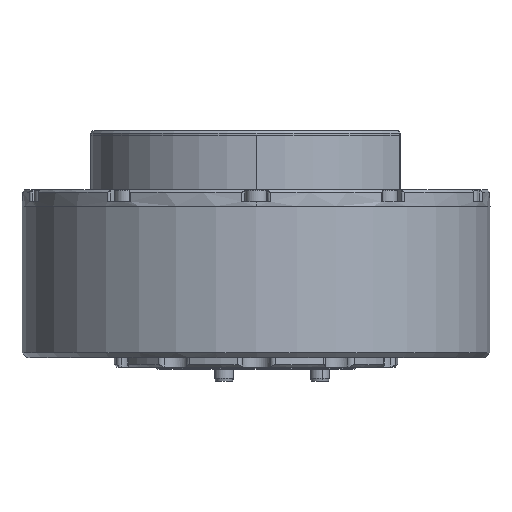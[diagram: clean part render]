
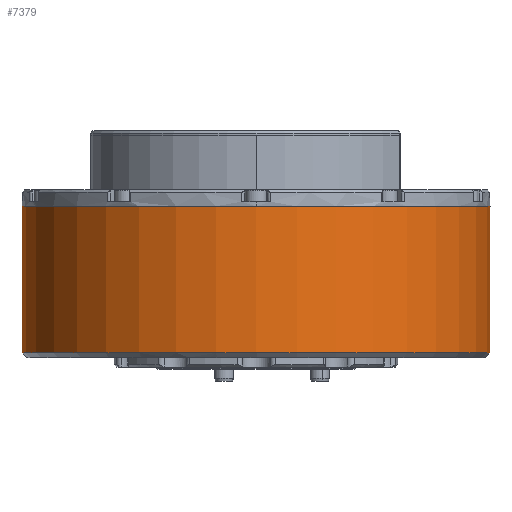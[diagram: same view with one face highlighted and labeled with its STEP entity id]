
A CAD part, front view. The second image highlights one B-rep face of the part: STEP entity #7379.
In plain terms, the highlighted cylindrical face has radius 49.5 mm (diameter 99 mm), a partial arc.
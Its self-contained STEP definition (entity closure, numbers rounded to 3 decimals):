
#339 = VERTEX_POINT ( 'NONE', #51271 ) ;
#1513 = DIRECTION ( 'NONE',  ( 0., 0., -1. ) ) ;
#5390 = DIRECTION ( 'NONE',  ( 1., 0.002, 0. ) ) ;
#5830 = DIRECTION ( 'NONE',  ( 0., 0., 1. ) ) ;
#7071 = CARTESIAN_POINT ( 'NONE',  ( 0., 0., 25.8 ) ) ;
#7242 = EDGE_LOOP ( 'NONE', ( #71191, #24785, #94049, #72724 ) ) ;
#7379 = ADVANCED_FACE ( 'NONE', ( #33160 ), #16682, .T. ) ;
#9573 = VERTEX_POINT ( 'NONE', #102354 ) ;
#16682 = CYLINDRICAL_SURFACE ( 'NONE', #28174, 49.5 ) ;
#19041 = LINE ( 'NONE', #19625, #28493 ) ;
#19062 = CARTESIAN_POINT ( 'NONE',  ( -49.5, -0.105, 33.3 ) ) ;
#19625 = CARTESIAN_POINT ( 'NONE',  ( 49.5, 0.105, 33.3 ) ) ;
#20743 = DIRECTION ( 'NONE',  ( 0., 0., -1. ) ) ;
#22283 = DIRECTION ( 'NONE',  ( 1., 0.002, 0. ) ) ;
#23528 = DIRECTION ( 'NONE',  ( 0., 0., 1. ) ) ;
#24785 = ORIENTED_EDGE ( 'NONE', *, *, #84358, .F. ) ;
#26340 = EDGE_CURVE ( 'NONE', #70093, #9573, #19041, .T. ) ;
#28174 = AXIS2_PLACEMENT_3D ( 'NONE', #66525, #67617, #110484 ) ;
#28493 = VECTOR ( 'NONE', #20743, 1000. ) ;
#30048 = CARTESIAN_POINT ( 'NONE',  ( 49.5, 0.105, 25.8 ) ) ;
#33160 = FACE_OUTER_BOUND ( 'NONE', #7242, .T. ) ;
#38035 = AXIS2_PLACEMENT_3D ( 'NONE', #58482, #5830, #22283 ) ;
#38676 = AXIS2_PLACEMENT_3D ( 'NONE', #7071, #23528, #5390 ) ;
#51271 = CARTESIAN_POINT ( 'NONE',  ( -49.5, -0.105, -5.2 ) ) ;
#58482 = CARTESIAN_POINT ( 'NONE',  ( 0., 0., -5.2 ) ) ;
#59458 = EDGE_CURVE ( 'NONE', #101530, #339, #62100, .T. ) ;
#62100 = LINE ( 'NONE', #19062, #89947 ) ;
#66525 = CARTESIAN_POINT ( 'NONE',  ( 0., 0., 33.3 ) ) ;
#67617 = DIRECTION ( 'NONE',  ( 0., 0., -1. ) ) ;
#69311 = CIRCLE ( 'NONE', #38676, 49.5 ) ;
#70093 = VERTEX_POINT ( 'NONE', #30048 ) ;
#71191 = ORIENTED_EDGE ( 'NONE', *, *, #26340, .F. ) ;
#72724 = ORIENTED_EDGE ( 'NONE', *, *, #82024, .T. ) ;
#82024 = EDGE_CURVE ( 'NONE', #339, #9573, #106531, .T. ) ;
#84358 = EDGE_CURVE ( 'NONE', #101530, #70093, #69311, .T. ) ;
#89947 = VECTOR ( 'NONE', #1513, 1000. ) ;
#94049 = ORIENTED_EDGE ( 'NONE', *, *, #59458, .T. ) ;
#99419 = CARTESIAN_POINT ( 'NONE',  ( -49.5, -0.105, 25.8 ) ) ;
#101530 = VERTEX_POINT ( 'NONE', #99419 ) ;
#102354 = CARTESIAN_POINT ( 'NONE',  ( 49.5, 0.105, -5.2 ) ) ;
#106531 = CIRCLE ( 'NONE', #38035, 49.5 ) ;
#110484 = DIRECTION ( 'NONE',  ( -1., -0.002, 0. ) ) ;
